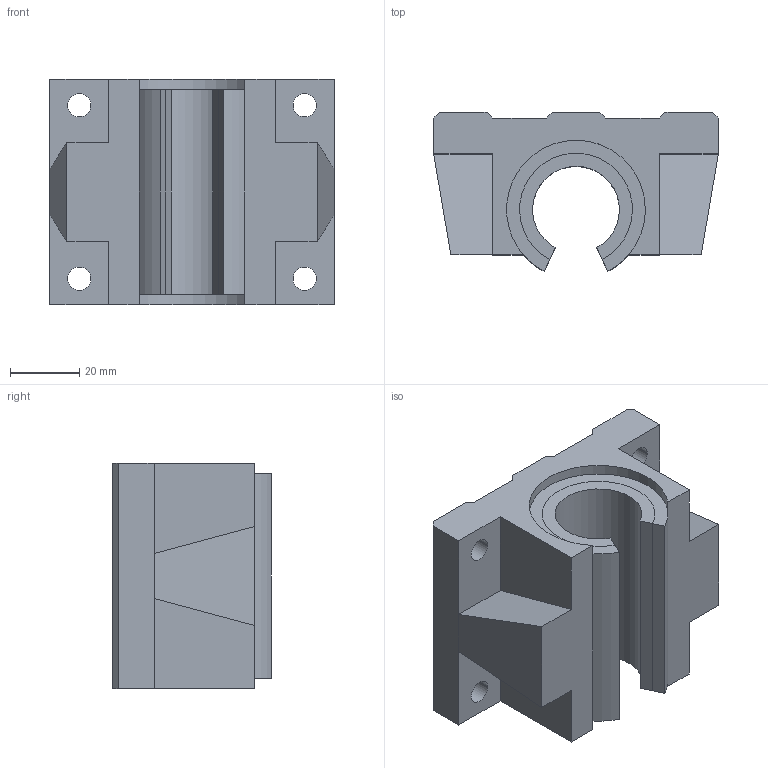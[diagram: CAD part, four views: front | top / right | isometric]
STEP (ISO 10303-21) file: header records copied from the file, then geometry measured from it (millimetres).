
FILE_DESCRIPTION((''),'2;1');
FILE_NAME('C:\Documents and Settings\ｿﾀﾀ蠑ｷ1\ｹﾙﾅﾁ ﾈｭｸ饅\ｺﾎﾇｰﾆﾄﾀﾏ\ﾁｦﾇｰ\TBR__UU\TBR25UU.stp','2005-06-15T17:37:03',('ｿﾀﾀ蠑ｷ1'),(''),'Autodesk Inventor 9','Autodesk Inventor 9','');
FILE_SCHEMA(('AUTOMOTIVE_DESIGN { 1 0 10303 214 1 1 1 1 }'));
Length unit declared in the file: millimetre
Products named in the file (1): TBR__
Bounding box: 82 x 45.8 x 65 mm (x, y, z)
Volume: 132212.2 mm3; surface area: 26762.9 mm2
Topology: 1 solids, 1 shells, 55 faces, 147 edges, 94 vertices
Faces by surface type: plane 33, bspline 14, cylinder 8
Entity records: 1842 total; most frequent: CARTESIAN_POINT 451, ORIENTED_EDGE 294, DIRECTION 265, EDGE_CURVE 147, VECTOR 113, LINE 113, VERTEX_POINT 94, AXIS2_PLACEMENT_3D 76
